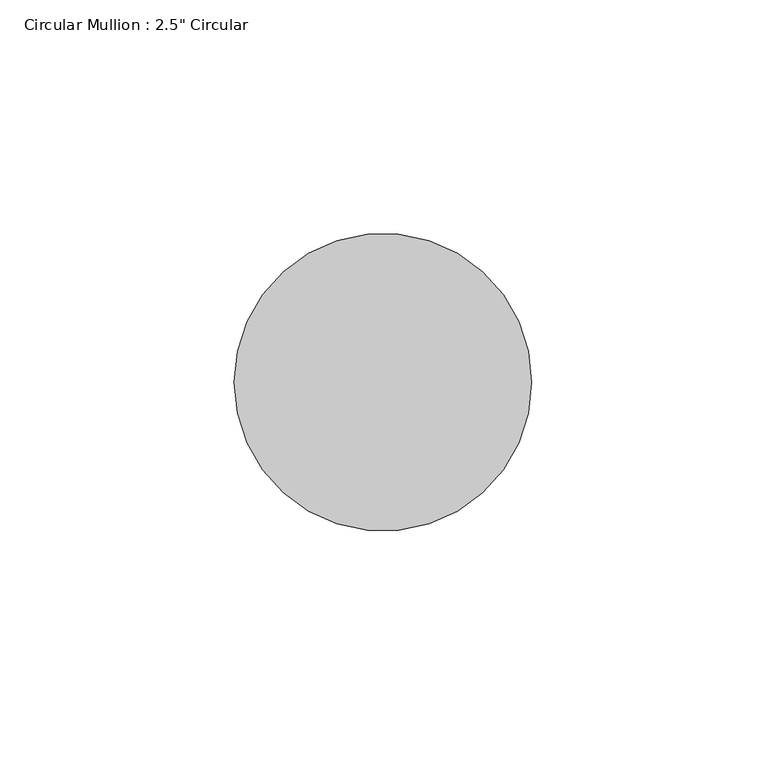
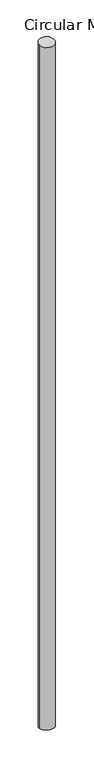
"""IFC4 building model written with IfcOpenShell, lengths in millimetres: member geometry."""

from ifc_helpers import new_model, si_unit, frame, origin, origin_with_axes, place, context, project, spatial, ellipse_curve, source, transform, mapped, element, save
from ifc_brep_helpers import plane_surface, cylinder_surface, advanced_brep


def member_b3db843a(model_context):
    return source(origin(), model_context, "Body", "AdvancedBrep", [
        advanced_brep(
        [(-31.75, 0.0, 0.1322222), (31.75, 0.0, -0.1322222), (31.75, 0.0, -3050.4005006), (-31.75, 0.0, -3050.5821624)],
        [
            (0, 1, ellipse_curve(frame((0.0, 0.0, 0.0), z_axis=(-0.004150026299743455, 0.08313564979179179, -0.996529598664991), x_axis=(-0.0496836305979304, 0.9952902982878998, 0.08323916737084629)), 31.860569, 31.75)),
            (1, 2),
            (2, 3, ellipse_curve(frame((0.0, 0.0, -3050.4913315), z_axis=(-0.0028477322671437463, 0.09548949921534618, 0.9954263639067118), x_axis=(0.029672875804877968, -0.9949840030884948, 0.09553195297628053)), 31.8958801, 31.75)),
            (3, 0),
            (1, 0, ellipse_curve(frame((0.0, 0.0, 0.0), z_axis=(-0.004150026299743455, 0.08313564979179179, -0.996529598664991), x_axis=(-0.0496836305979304, 0.9952902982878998, 0.08323916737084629)), 31.860569, 31.75)),
            (3, 2, ellipse_curve(frame((0.0, 0.0, -3050.4913315), z_axis=(-0.0028477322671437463, 0.09548949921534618, 0.9954263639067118), x_axis=(0.029672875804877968, -0.9949840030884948, 0.09553195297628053)), 31.8958801, 31.75)),
        ],
        [
            cylinder_surface(origin_with_axes(), 31.75),
            plane_surface(frame((304.4209458, 15.1963079, 0.0), z_axis=(0.004150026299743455, -0.08313564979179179, 0.996529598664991), x_axis=(0.04968363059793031, -0.9952902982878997, -0.0832391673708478))),
            plane_surface(frame((304.6645489, 9.0858479, -3050.4913315), z_axis=(0.002847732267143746, -0.09548949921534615, -0.9954263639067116), x_axis=(0.029672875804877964, -0.9949840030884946, 0.09553195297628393))),
        ],
        [
            (0, [[1, 2, 3, 4]]),
            (0, [[5, -4, 6, -2]]),
            (1, [[-1, -5]]),
            (2, [[-6, -3]]),
        ],
    ),
    ])


if __name__ == "__main__":
    model = new_model("IFC4")
    model_context = context("Model", 3, world=origin())
    ifc_project = project(units=[si_unit("LENGTHUNIT", "METRE", prefix="MILLI")], contexts=[model_context])
    site = spatial("IfcSite", under=ifc_project)
    building = spatial("IfcBuilding", under=site)
    placement = place(None, origin())
    member_shape = member_b3db843a(model_context)
    element("IfcMember", 1, ObjectType="Circular Mullion : 2.5\" Circular", at=placement, inside=building, context=model_context, shape_type="MappedRepresentation", body=[
        mapped(member_shape, transform((0.0, 0.0, 0.0), x_axis=(1.0, 0.0, 0.0), y_axis=(0.0, 1.0, 0.0), z_axis=(0.0, 0.0, 1.0))),
    ])
    save(model, "model.ifc")
